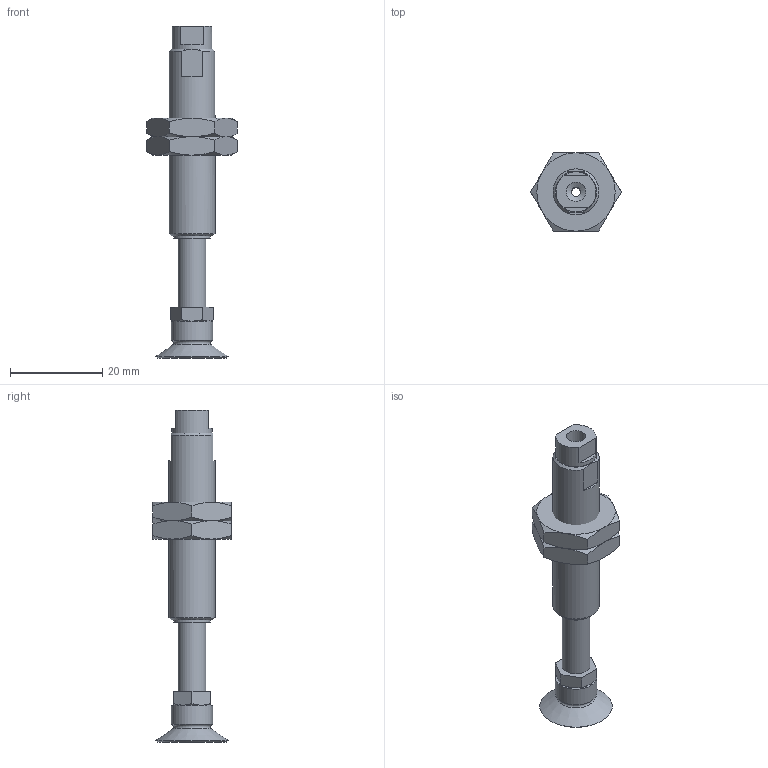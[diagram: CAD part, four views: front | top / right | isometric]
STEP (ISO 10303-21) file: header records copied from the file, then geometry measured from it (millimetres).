
FILE_DESCRIPTION(('STEP AP203'),'1');
FILE_NAME('-LB.stp','2025-10-10T05:50:37',(' '),(' '),'Spatial InterOp 3D',' ',' ');
FILE_SCHEMA(('CONFIG_CONTROL_DESIGN'));
Length unit declared in the file: millimetre
Products named in the file (8): BNABPFTH-15A-15-※-LB; NUT; __; BODY; TN-PS-10-M5; Setting screws-TN-PS-10-M5; BPFG-15A-※
Assembly tree (7 placements, depth 3):
  BNABPFTH-15A-15-※-LB
    NUT
    NUT
    __
    BODY
    TN-PS-10-M5
      Setting screws-TN-PS-10-M5
    BPFG-15A-※
Bounding box: 19.63 x 17 x 72 mm (x, y, z)
Volume: 5700.2 mm3; surface area: 4873.9 mm2
Topology: 6 solids, 6 shells, 126 faces, 267 edges, 161 vertices
Faces by surface type: plane 58, cone 41, cylinder 18, torus 8, bspline 1
Full cylindrical faces by diameter (mm): 2 x3, 3.9 x1, 4 x2, 4.2 x2, 5 x1, 6 x3, 8 x1, 8.7 x1, 9 x3, 10 x1
Entity records: 3637 total; most frequent: CARTESIAN_POINT 768, DIRECTION 522, ORIENTED_EDGE 444, AXIS2_PLACEMENT_3D 230, EDGE_CURVE 222, EDGE_LOOP 182, FACE_OUTER_BOUND 153, VERTEX_POINT 152
